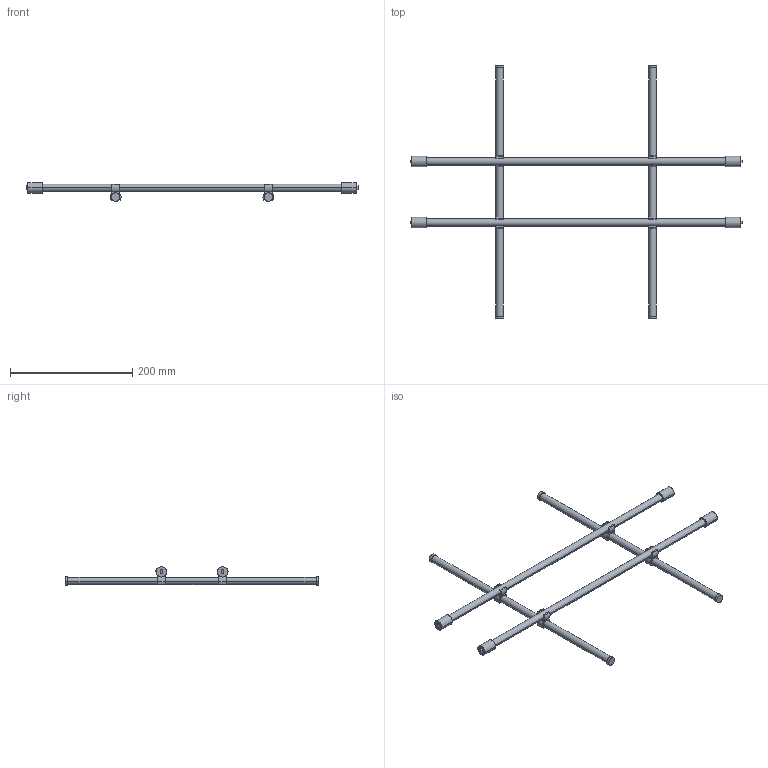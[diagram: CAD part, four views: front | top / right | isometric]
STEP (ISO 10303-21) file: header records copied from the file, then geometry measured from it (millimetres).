
FILE_DESCRIPTION (( 'STEP AP214' ), '1' );
FILE_NAME ('Magic-Classic_NL-450-KAB 600.step', '2010-09-16T12:49:18', ( 'grass' ), ( '' ), 'SwSTEP 2.0', 'SolidWorks 2010', '' );
FILE_SCHEMA (( 'AUTOMOTIVE_DESIGN' ));
Length unit declared in the file: millimetre
Products named in the file (1): Magic-Classic_NL-450-KAB 600
Bounding box: 543 x 415 x 30.45 mm (x, y, z)
Volume: 235892.2 mm3; surface area: 78313.4 mm2
Topology: 1 solids, 1 shells, 140 faces, 384 edges, 256 vertices
Faces by surface type: plane 76, cylinder 64
Entity records: 4546 total; most frequent: DIRECTION 826, CARTESIAN_POINT 781, ORIENTED_EDGE 768, EDGE_CURVE 384, AXIS2_PLACEMENT_3D 301, VERTEX_POINT 256, VECTOR 224, LINE 224
